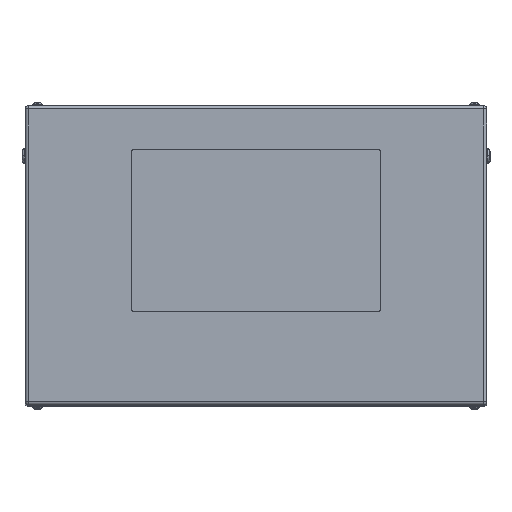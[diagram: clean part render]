
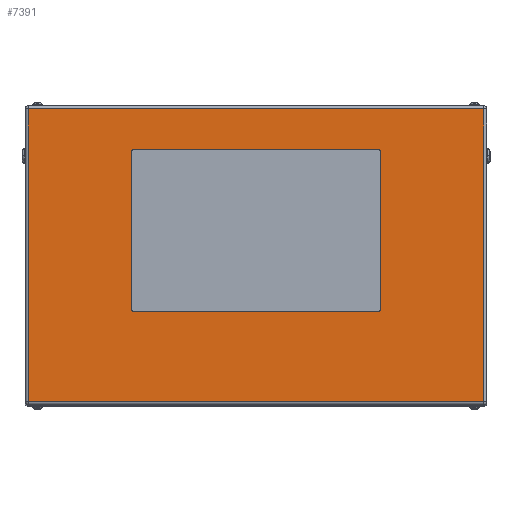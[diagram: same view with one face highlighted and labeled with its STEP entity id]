
A CAD part, top view. The second image highlights one B-rep face of the part: STEP entity #7391.
In plain terms, the highlighted planar face has unit normal (0, 0, 1).
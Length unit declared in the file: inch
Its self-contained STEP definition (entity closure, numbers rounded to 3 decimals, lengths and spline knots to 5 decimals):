
#30 = CIRCLE ( 'NONE', #11788, 0.25 ) ;
#189 = LINE ( 'NONE', #7890, #20060 ) ;
#362 = CARTESIAN_POINT ( 'NONE',  ( 10., -4.25, 28. ) ) ;
#460 = VECTOR ( 'NONE', #4678, 39.37008 ) ;
#974 = DIRECTION ( 'NONE',  ( -1., 0., 0. ) ) ;
#1121 = VERTEX_POINT ( 'NONE', #12062 ) ;
#1181 = VERTEX_POINT ( 'NONE', #15989 ) ;
#1416 = CARTESIAN_POINT ( 'NONE',  ( 9.75, -4.5, 28. ) ) ;
#1767 = EDGE_CURVE ( 'NONE', #14526, #1121, #16270, .T. ) ;
#1852 = CARTESIAN_POINT ( 'NONE',  ( 18.234, 11.734, 28. ) ) ;
#2190 = EDGE_CURVE ( 'NONE', #6402, #1181, #10668, .T. ) ;
#2371 = DIRECTION ( 'NONE',  ( 0., 0., 1. ) ) ;
#2557 = ORIENTED_EDGE ( 'NONE', *, *, #4514, .F. ) ;
#2917 = EDGE_CURVE ( 'NONE', #1181, #8589, #189, .T. ) ;
#2942 = ORIENTED_EDGE ( 'NONE', *, *, #7771, .F. ) ;
#3101 = VERTEX_POINT ( 'NONE', #20432 ) ;
#3111 = CARTESIAN_POINT ( 'NONE',  ( -9.75, 8.5, 28. ) ) ;
#3274 = VECTOR ( 'NONE', #12530, 39.37008 ) ;
#3537 = DIRECTION ( 'NONE',  ( 0., 0., 1. ) ) ;
#3684 = CARTESIAN_POINT ( 'NONE',  ( 10., 8.25, 28. ) ) ;
#3741 = CARTESIAN_POINT ( 'NONE',  ( -10., 8.25, 28. ) ) ;
#3886 = AXIS2_PLACEMENT_3D ( 'NONE', #16865, #7177, #13531 ) ;
#4050 = EDGE_LOOP ( 'NONE', ( #15706, #14056, #5912, #12943, #17689, #9660, #2557, #2942 ) ) ;
#4514 = EDGE_CURVE ( 'NONE', #20091, #3101, #10100, .T. ) ;
#4521 = PLANE ( 'NONE',  #14405 ) ;
#4678 = DIRECTION ( 'NONE',  ( 0., -1., 0. ) ) ;
#5074 = EDGE_CURVE ( 'NONE', #5722, #6402, #13459, .T. ) ;
#5101 = EDGE_CURVE ( 'NONE', #8589, #5722, #11697, .T. ) ;
#5363 = CIRCLE ( 'NONE', #10718, 0.25 ) ;
#5524 = CARTESIAN_POINT ( 'NONE',  ( 9.75, -4.25, 28. ) ) ;
#5581 = CIRCLE ( 'NONE', #3886, 0.25 ) ;
#5716 = VECTOR ( 'NONE', #974, 39.37008 ) ;
#5722 = VERTEX_POINT ( 'NONE', #1852 ) ;
#5912 = ORIENTED_EDGE ( 'NONE', *, *, #15094, .F. ) ;
#6082 = LINE ( 'NONE', #17272, #8929 ) ;
#6402 = VERTEX_POINT ( 'NONE', #13904 ) ;
#7177 = DIRECTION ( 'NONE',  ( 0., 0., 1. ) ) ;
#7391 = ADVANCED_FACE ( 'NONE', ( #13750, #20057 ), #4521, .F. ) ;
#7771 = EDGE_CURVE ( 'NONE', #19114, #20091, #30, .T. ) ;
#7837 = CARTESIAN_POINT ( 'NONE',  ( -18.234, 12., 28. ) ) ;
#7890 = CARTESIAN_POINT ( 'NONE',  ( 18.234, -11.734, 28. ) ) ;
#8170 = ORIENTED_EDGE ( 'NONE', *, *, #5101, .T. ) ;
#8589 = VERTEX_POINT ( 'NONE', #19917 ) ;
#8879 = DIRECTION ( 'NONE',  ( 0., 1., 0. ) ) ;
#8929 = VECTOR ( 'NONE', #18186, 39.37008 ) ;
#9021 = ORIENTED_EDGE ( 'NONE', *, *, #5074, .T. ) ;
#9404 = EDGE_LOOP ( 'NONE', ( #10416, #12906, #8170, #9021 ) ) ;
#9528 = DIRECTION ( 'NONE',  ( -1., 0., 0. ) ) ;
#9660 = ORIENTED_EDGE ( 'NONE', *, *, #10593, .F. ) ;
#10062 = CARTESIAN_POINT ( 'NONE',  ( -9.75, 8.25, 28. ) ) ;
#10100 = LINE ( 'NONE', #3684, #19073 ) ;
#10416 = ORIENTED_EDGE ( 'NONE', *, *, #2190, .T. ) ;
#10593 = EDGE_CURVE ( 'NONE', #3101, #11693, #5581, .T. ) ;
#10668 = LINE ( 'NONE', #7837, #3274 ) ;
#10718 = AXIS2_PLACEMENT_3D ( 'NONE', #10062, #3537, #19902 ) ;
#10918 = DIRECTION ( 'NONE',  ( -1., 0., 0. ) ) ;
#11126 = VERTEX_POINT ( 'NONE', #3741 ) ;
#11693 = VERTEX_POINT ( 'NONE', #11958 ) ;
#11697 = LINE ( 'NONE', #18165, #20775 ) ;
#11788 = AXIS2_PLACEMENT_3D ( 'NONE', #5524, #2371, #20194 ) ;
#11958 = CARTESIAN_POINT ( 'NONE',  ( 9.75, 8.5, 28. ) ) ;
#12062 = CARTESIAN_POINT ( 'NONE',  ( -9.75, -4.5, 28. ) ) ;
#12190 = DIRECTION ( 'NONE',  ( 0., 0., -1. ) ) ;
#12530 = DIRECTION ( 'NONE',  ( 0., -1., 0. ) ) ;
#12655 = CARTESIAN_POINT ( 'NONE',  ( -10., 8.25, 28. ) ) ;
#12906 = ORIENTED_EDGE ( 'NONE', *, *, #2917, .T. ) ;
#12943 = ORIENTED_EDGE ( 'NONE', *, *, #18809, .F. ) ;
#13286 = AXIS2_PLACEMENT_3D ( 'NONE', #15125, #13676, #18607 ) ;
#13459 = LINE ( 'NONE', #19777, #5716 ) ;
#13531 = DIRECTION ( 'NONE',  ( -1., 0., 0. ) ) ;
#13625 = EDGE_CURVE ( 'NONE', #1121, #19114, #6082, .T. ) ;
#13676 = DIRECTION ( 'NONE',  ( 0., 0., 1. ) ) ;
#13750 = FACE_BOUND ( 'NONE', #4050, .T. ) ;
#13904 = CARTESIAN_POINT ( 'NONE',  ( -18.234, 11.734, 28. ) ) ;
#14056 = ORIENTED_EDGE ( 'NONE', *, *, #1767, .F. ) ;
#14405 = AXIS2_PLACEMENT_3D ( 'NONE', #20164, #12190, #10918 ) ;
#14526 = VERTEX_POINT ( 'NONE', #18648 ) ;
#15023 = VERTEX_POINT ( 'NONE', #20620 ) ;
#15094 = EDGE_CURVE ( 'NONE', #11126, #14526, #16854, .T. ) ;
#15125 = CARTESIAN_POINT ( 'NONE',  ( -9.75, -4.25, 28. ) ) ;
#15706 = ORIENTED_EDGE ( 'NONE', *, *, #13625, .F. ) ;
#15805 = DIRECTION ( 'NONE',  ( 1., 0., 0. ) ) ;
#15989 = CARTESIAN_POINT ( 'NONE',  ( -18.234, -11.734, 28. ) ) ;
#16270 = CIRCLE ( 'NONE', #13286, 0.25 ) ;
#16450 = DIRECTION ( 'NONE',  ( 0., 1., 0. ) ) ;
#16854 = LINE ( 'NONE', #12655, #460 ) ;
#16865 = CARTESIAN_POINT ( 'NONE',  ( 9.75, 8.25, 28. ) ) ;
#17055 = EDGE_CURVE ( 'NONE', #11693, #15023, #17451, .T. ) ;
#17272 = CARTESIAN_POINT ( 'NONE',  ( -9.75, -4.5, 28. ) ) ;
#17451 = LINE ( 'NONE', #3111, #17642 ) ;
#17642 = VECTOR ( 'NONE', #9528, 39.37008 ) ;
#17689 = ORIENTED_EDGE ( 'NONE', *, *, #17055, .F. ) ;
#18165 = CARTESIAN_POINT ( 'NONE',  ( 18.234, 12., 28. ) ) ;
#18186 = DIRECTION ( 'NONE',  ( 1., 0., 0. ) ) ;
#18607 = DIRECTION ( 'NONE',  ( 1., 0., 0. ) ) ;
#18648 = CARTESIAN_POINT ( 'NONE',  ( -10., -4.25, 28. ) ) ;
#18809 = EDGE_CURVE ( 'NONE', #15023, #11126, #5363, .T. ) ;
#19073 = VECTOR ( 'NONE', #16450, 39.37008 ) ;
#19114 = VERTEX_POINT ( 'NONE', #1416 ) ;
#19777 = CARTESIAN_POINT ( 'NONE',  ( 18.5, 11.734, 28. ) ) ;
#19902 = DIRECTION ( 'NONE',  ( 1., 0., 0. ) ) ;
#19917 = CARTESIAN_POINT ( 'NONE',  ( 18.234, -11.734, 28. ) ) ;
#20057 = FACE_OUTER_BOUND ( 'NONE', #9404, .T. ) ;
#20060 = VECTOR ( 'NONE', #15805, 39.37008 ) ;
#20091 = VERTEX_POINT ( 'NONE', #362 ) ;
#20164 = CARTESIAN_POINT ( 'NONE',  ( 18.5, 12., 28. ) ) ;
#20194 = DIRECTION ( 'NONE',  ( 1., 0., 0. ) ) ;
#20432 = CARTESIAN_POINT ( 'NONE',  ( 10., 8.25, 28. ) ) ;
#20620 = CARTESIAN_POINT ( 'NONE',  ( -9.75, 8.5, 28. ) ) ;
#20775 = VECTOR ( 'NONE', #8879, 39.37008 ) ;
